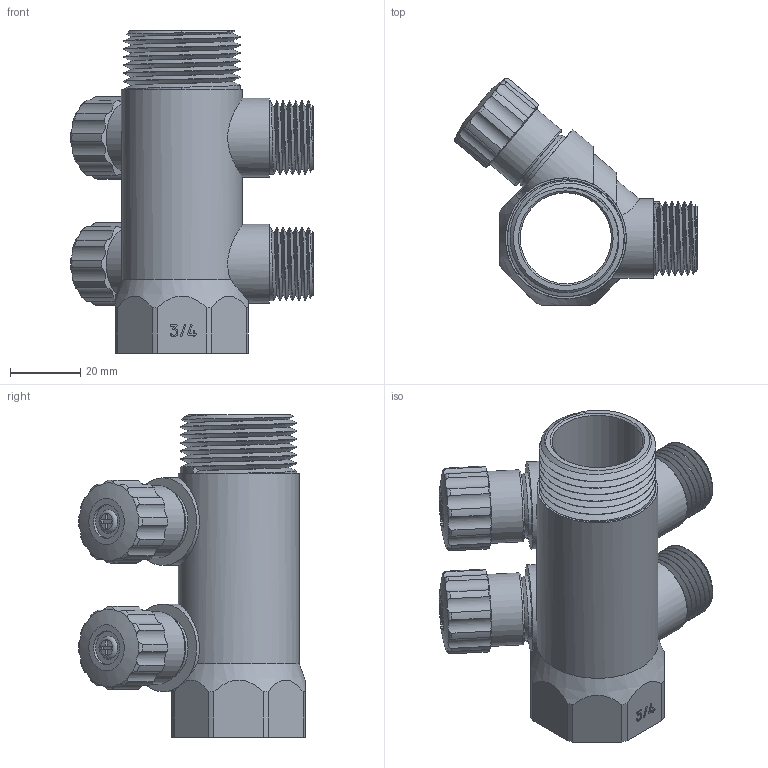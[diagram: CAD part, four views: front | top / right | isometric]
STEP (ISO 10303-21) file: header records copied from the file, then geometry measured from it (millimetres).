
FILE_DESCRIPTION(/* description */ (''),/* implementation_level */ '2;1');
FILE_NAME(/* name */ 'H:\Мишенин_3D\Исходные файлы 3D\VTc.560.N.0602.stp',/* time_stamp */ '2019-07-24T16:23:48+03:00',/* author */ ('misheninal'),/* organization */ (''),/* preprocessor_version */ 'ST-DEVELOPER v18',/* originating_system */ 'Autodesk Inventor 2020',/* authorisation */ '');
FILE_SCHEMA (('AUTOMOTIVE_DESIGN { 1 0 10303 214 3 1 1 }'));
Length unit declared in the file: millimetre
Products named in the file (1): VT.580_3%4_1%2-4
Bounding box: 69.21 x 64.76 x 92 mm (x, y, z)
Volume: 58640.9 mm3; surface area: 34483.2 mm2
Topology: 1 solids, 1 shells, 355 faces, 1009 edges, 680 vertices
Faces by surface type: cylinder 148, plane 105, bspline 52, torus 30, cone 20
Full cylindrical faces by diameter (mm): 9.679 x2, 10.5 x2, 15.1 x2, 16.1 x2, 17.4 x12, 18.621 x2, 20.621 x2, 21 x10, 22.5 x2, 25 x1, 26 x1, 28 x1, 28.7 x6, 30.3 x3, 33.3 x6, 33.8 x1, 34.5 x1, 34.9 x4
Entity records: 20104 total; most frequent: CARTESIAN_POINT 11402, ORIENTED_EDGE 2018, DIRECTION 1527, EDGE_CURVE 1009, VERTEX_POINT 680, AXIS2_PLACEMENT_3D 573, EDGE_LOOP 385, LINE 381
